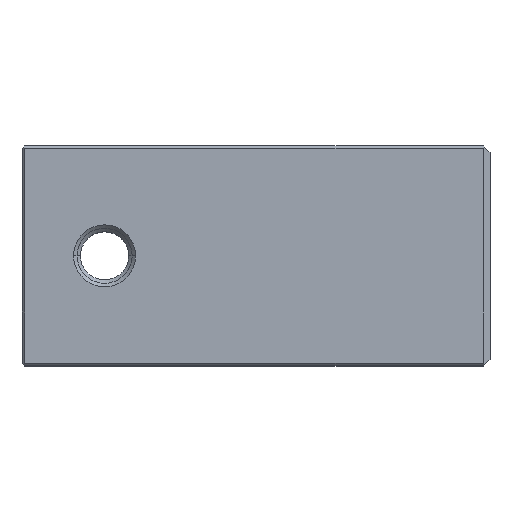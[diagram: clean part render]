
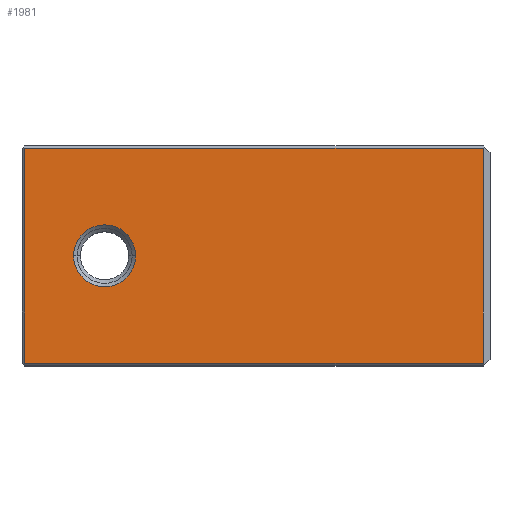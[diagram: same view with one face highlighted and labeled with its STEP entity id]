
A CAD part, top view. The second image highlights one B-rep face of the part: STEP entity #1981.
In plain terms, the highlighted planar face has unit normal (0, 0, 1).
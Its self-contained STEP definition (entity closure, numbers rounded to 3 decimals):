
#665=DIRECTION('',(1.,0.,0.));
#666=VECTOR('',#665,33.3);
#667=CARTESIAN_POINT('',(-16.8,15.8,8.));
#668=LINE('',#667,#666);
#672=DIRECTION('',(0.,-1.,0.));
#673=VECTOR('',#672,15.6);
#674=CARTESIAN_POINT('',(16.5,15.8,8.));
#675=LINE('',#674,#673);
#679=DIRECTION('',(-1.,0.,0.));
#680=VECTOR('',#679,33.3);
#681=CARTESIAN_POINT('',(16.5,0.2,8.));
#682=LINE('',#681,#680);
#686=DIRECTION('',(0.,-1.,0.));
#687=VECTOR('',#686,15.6);
#688=CARTESIAN_POINT('',(-16.8,15.8,8.));
#689=LINE('',#688,#687);
#693=CARTESIAN_POINT('',(-11.,8.,8.));
#694=DIRECTION('',(0.,0.,-1.));
#695=DIRECTION('',(-1.,0.,0.));
#696=AXIS2_PLACEMENT_3D('',#693,#694,#695);
#701=CARTESIAN_POINT('',(-11.,8.,8.));
#702=DIRECTION('',(0.,0.,-1.));
#703=DIRECTION('',(1.,0.,0.));
#704=AXIS2_PLACEMENT_3D('',#701,#702,#703);
#1284=CARTESIAN_POINT('',(16.5,15.8,8.));
#1285=VERTEX_POINT('',#1284);
#1286=CARTESIAN_POINT('',(-16.8,15.8,8.));
#1287=VERTEX_POINT('',#1286);
#1300=CARTESIAN_POINT('',(16.5,0.2,8.));
#1302=VERTEX_POINT('',#1300);
#1306=CARTESIAN_POINT('',(-16.8,0.2,8.));
#1307=VERTEX_POINT('',#1306);
#1340=CARTESIAN_POINT('',(-13.25,8.,8.));
#1341=CARTESIAN_POINT('',(-8.75,8.,8.));
#1342=VERTEX_POINT('',#1340);
#1343=VERTEX_POINT('',#1341);
#1963=CARTESIAN_POINT('',(-17.,0.,8.));
#1964=DIRECTION('',(0.,0.,1.));
#1965=DIRECTION('',(1.,0.,0.));
#1966=AXIS2_PLACEMENT_3D('',#1963,#1964,#1965);
#1967=PLANE('',#1966);
#1968=ORIENTED_EDGE('',*,*,#1582,.T.);
#1969=ORIENTED_EDGE('',*,*,#1569,.T.);
#1970=ORIENTED_EDGE('',*,*,#1551,.T.);
#1972=ORIENTED_EDGE('',*,*,#1971,.F.);
#1973=EDGE_LOOP('',(#1968,#1969,#1970,#1972));
#1974=FACE_OUTER_BOUND('',#1973,.F.);
#1976=ORIENTED_EDGE('',*,*,#1975,.F.);
#1978=ORIENTED_EDGE('',*,*,#1977,.F.);
#1979=EDGE_LOOP('',(#1976,#1978));
#1980=FACE_BOUND('',#1979,.F.);
#697=CIRCLE('',#696,2.25);
#705=CIRCLE('',#704,2.25);
#1551=EDGE_CURVE('',#1302,#1307,#682,.T.);
#1569=EDGE_CURVE('',#1285,#1302,#675,.T.);
#1582=EDGE_CURVE('',#1287,#1285,#668,.T.);
#1971=EDGE_CURVE('',#1287,#1307,#689,.T.);
#1975=EDGE_CURVE('',#1342,#1343,#697,.T.);
#1977=EDGE_CURVE('',#1343,#1342,#705,.T.);
#1981=ADVANCED_FACE('',(#1974,#1980),#1967,.T.);
